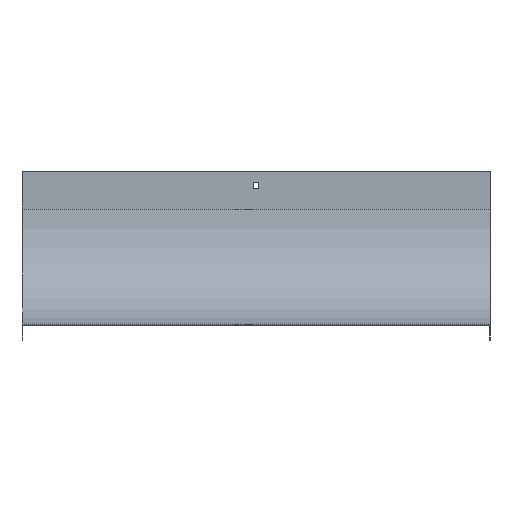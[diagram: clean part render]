
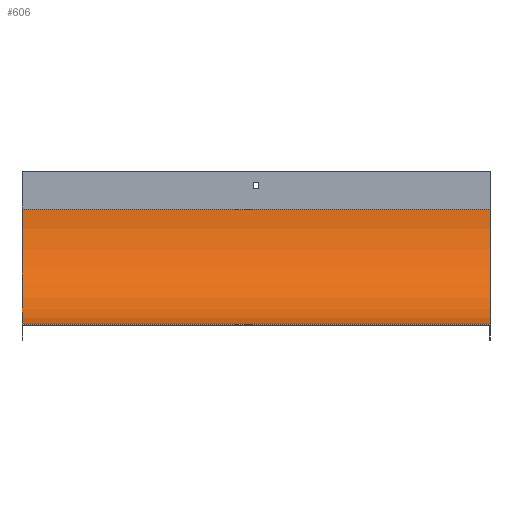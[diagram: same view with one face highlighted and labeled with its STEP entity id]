
A CAD part, top view. The second image highlights one B-rep face of the part: STEP entity #606.
In plain terms, the highlighted cylindrical face has radius 124 mm (diameter 248 mm), a partial arc.
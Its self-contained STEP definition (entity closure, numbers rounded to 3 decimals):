
#16 = CARTESIAN_POINT ( 'NONE',  ( -251., 0., -40. ) ) ;
#30 = AXIS2_PLACEMENT_3D ( 'NONE', #86, #560, #692 ) ;
#41 = VERTEX_POINT ( 'NONE', #16 ) ;
#71 = VERTEX_POINT ( 'NONE', #144 ) ;
#78 = VECTOR ( 'NONE', #474, 1000. ) ;
#80 = EDGE_CURVE ( 'NONE', #362, #71, #285, .T. ) ;
#86 = CARTESIAN_POINT ( 'NONE',  ( -251., 124., -40. ) ) ;
#114 = EDGE_CURVE ( 'NONE', #71, #41, #672, .T. ) ;
#117 = CARTESIAN_POINT ( 'NONE',  ( 251., 124., -164. ) ) ;
#133 = EDGE_LOOP ( 'NONE', ( #508, #832, #272, #469 ) ) ;
#144 = CARTESIAN_POINT ( 'NONE',  ( 251., 0., -40. ) ) ;
#204 = CARTESIAN_POINT ( 'NONE',  ( 251., 0., -40. ) ) ;
#245 = FACE_OUTER_BOUND ( 'NONE', #133, .T. ) ;
#252 = AXIS2_PLACEMENT_3D ( 'NONE', #668, #551, #730 ) ;
#253 = VECTOR ( 'NONE', #655, 1000. ) ;
#272 = ORIENTED_EDGE ( 'NONE', *, *, #80, .F. ) ;
#285 = CIRCLE ( 'NONE', #252, 124. ) ;
#336 = EDGE_CURVE ( 'NONE', #362, #453, #388, .T. ) ;
#362 = VERTEX_POINT ( 'NONE', #454 ) ;
#388 = LINE ( 'NONE', #117, #253 ) ;
#425 = DIRECTION ( 'NONE',  ( -1., 0., 0. ) ) ;
#453 = VERTEX_POINT ( 'NONE', #647 ) ;
#454 = CARTESIAN_POINT ( 'NONE',  ( 251., 124., -164. ) ) ;
#469 = ORIENTED_EDGE ( 'NONE', *, *, #336, .T. ) ;
#474 = DIRECTION ( 'NONE',  ( -1., 0., 0. ) ) ;
#508 = ORIENTED_EDGE ( 'NONE', *, *, #666, .T. ) ;
#551 = DIRECTION ( 'NONE',  ( -1., 0., 0. ) ) ;
#560 = DIRECTION ( 'NONE',  ( -1., 0., 0. ) ) ;
#606 = ADVANCED_FACE ( 'NONE', ( #245 ), #634, .F. ) ;
#614 = CIRCLE ( 'NONE', #30, 124. ) ;
#634 = CYLINDRICAL_SURFACE ( 'NONE', #679, 124. ) ;
#647 = CARTESIAN_POINT ( 'NONE',  ( -251., 124., -164. ) ) ;
#655 = DIRECTION ( 'NONE',  ( -1., 0., 0. ) ) ;
#666 = EDGE_CURVE ( 'NONE', #453, #41, #614, .T. ) ;
#668 = CARTESIAN_POINT ( 'NONE',  ( 251., 124., -40. ) ) ;
#672 = LINE ( 'NONE', #204, #78 ) ;
#679 = AXIS2_PLACEMENT_3D ( 'NONE', #761, #425, #775 ) ;
#692 = DIRECTION ( 'NONE',  ( 0., 0., -1. ) ) ;
#730 = DIRECTION ( 'NONE',  ( 0., 0., -1. ) ) ;
#761 = CARTESIAN_POINT ( 'NONE',  ( 251., 124., -40. ) ) ;
#775 = DIRECTION ( 'NONE',  ( 0., 0., 1. ) ) ;
#832 = ORIENTED_EDGE ( 'NONE', *, *, #114, .F. ) ;
